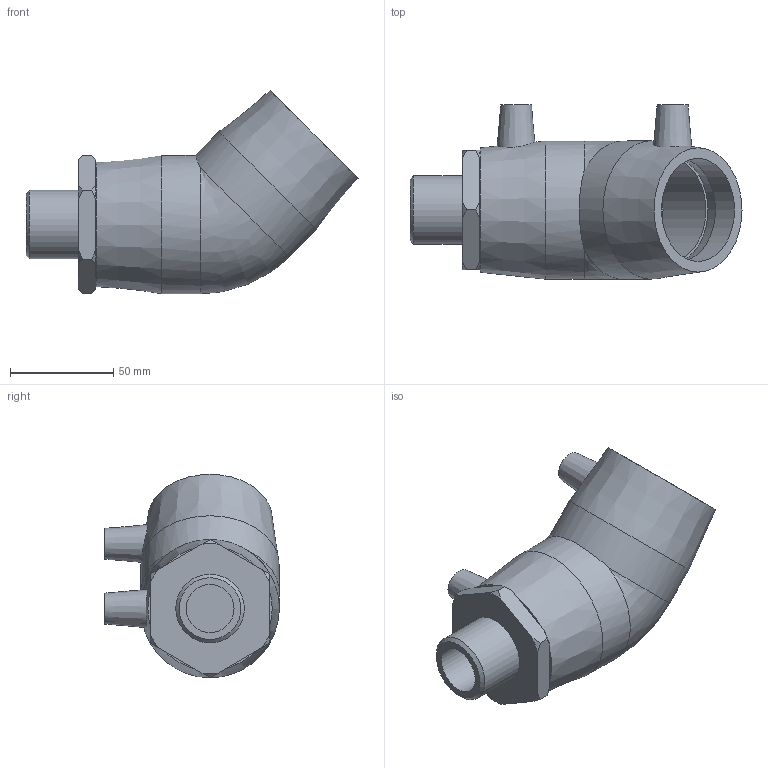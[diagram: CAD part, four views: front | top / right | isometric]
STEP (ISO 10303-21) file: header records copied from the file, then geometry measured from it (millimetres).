
FILE_DESCRIPTION(/* description */ ('PLASSON 45° ELBOW TRANSITION MALE 50-1"'),/* implementation_level */ '2;1');
FILE_NAME(/* name */ 'C:\Dropbox\KIMPROJECTS-Inventor\99-16-3568-Processing\ElectroFusion Fittings\02.02.20\492604\492604050010.ipt.stp',/* time_stamp */ '2020-02-02T12:20:02+02:00',/* author */ ('KIM'),/* organization */ (''),/* preprocessor_version */ 'ST-DEVELOPER v15.6',/* originating_system */ 'Autodesk Inventor 2015',/* authorisation */ '');
FILE_SCHEMA (('AUTOMOTIVE_DESIGN { 1 0 10303 214 3 1 1 }'));
Length unit declared in the file: millimetre
Products named in the file (1): 492604050010
Bounding box: 161 x 84.5 x 98.59 mm (x, y, z)
Volume: 292114.2 mm3; surface area: 60591.9 mm2
Topology: 1 solids, 2 shells, 59 faces, 133 edges, 88 vertices
Faces by surface type: plane 24, cone 19, cylinder 15, bspline 1
Full cylindrical faces by diameter (mm): 4 x2, 10 x2, 23.274 x1, 32.5 x2, 33.249 x1, 38 x1, 50 x4, 67 x2
Entity records: 1500 total; most frequent: CARTESIAN_POINT 369, DIRECTION 236, ORIENTED_EDGE 188, AXIS2_PLACEMENT_3D 109, EDGE_LOOP 97, EDGE_CURVE 94, VERTEX_POINT 75, FACE_OUTER_BOUND 59
